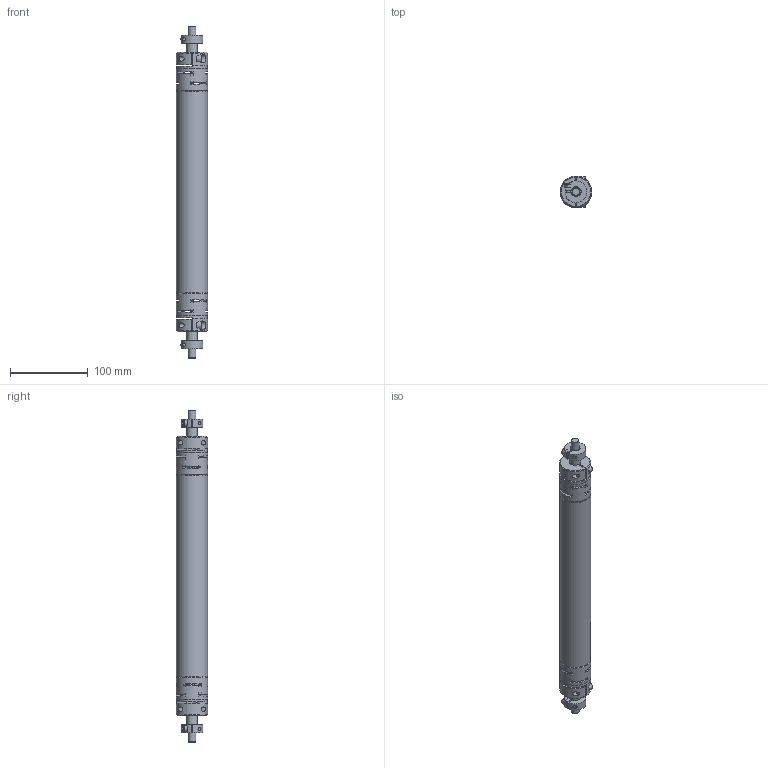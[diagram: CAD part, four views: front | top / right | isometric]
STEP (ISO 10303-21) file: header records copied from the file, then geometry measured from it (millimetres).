
FILE_DESCRIPTION(/* description */ ('Dummy'),/* implementation_level */ '2;1');
FILE_NAME(/* name */ 'D:\InventorWorkspace2019\CAD\_lokale konstruktionen\VerbWelleHLR070\0232.910-0450.stp',/* time_stamp */ '2020-04-14T16:11:11+02:00',/* author */ ('AR64535'),/* organization */ (''),/* preprocessor_version */ 'ST-DEVELOPER v17.2',/* originating_system */ 'Autodesk Inventor 2019',/* authorisation */ '');
FILE_SCHEMA (('AUTOMOTIVE_DESIGN { 1 0 10303 214 3 1 1 }'));
Length unit declared in the file: millimetre
Products named in the file (8): 0241910-XXXX_HLR070; 0241.910-XXXX; ROTEX GS19 ZR3_Klemmnabe D14; ROTEX GS19 ZR3_Rohr; 0232.007-02; 0231.029; 0231.012-01; 130-302319
Assembly tree (11 placements, depth 3):
  0241910-XXXX_HLR070
    0241.910-XXXX
      ROTEX GS19 ZR3_Klemmnabe D14  x2
      ROTEX GS19 ZR3_Rohr
    0232.007-02
      0231.029  x2
      0231.012-01  x2
      130-302319  x2
Bounding box: 40 x 40 x 426 mm (x, y, z)
Volume: 203279.6 mm3; surface area: 107868.2 mm2
Topology: 9 solids, 9 shells, 430 faces, 1260 edges, 858 vertices
Faces by surface type: cylinder 178, plane 156, cone 92, torus 4
Full cylindrical faces by diameter (mm): 3 x12, 4.134 x2, 5 x2, 5.3 x2, 6 x4, 6.6 x8, 8.5 x2, 10 x6, 14 x4, 18 x4, 22 x2, 34 x1, 39.4 x2, 40 x3
Entity records: 8244 total; most frequent: CARTESIAN_POINT 2097, ORIENTED_EDGE 1268, DIRECTION 1244, EDGE_CURVE 634, AXIS2_PLACEMENT_3D 516, VERTEX_POINT 432, CIRCLE 279, EDGE_LOOP 256
